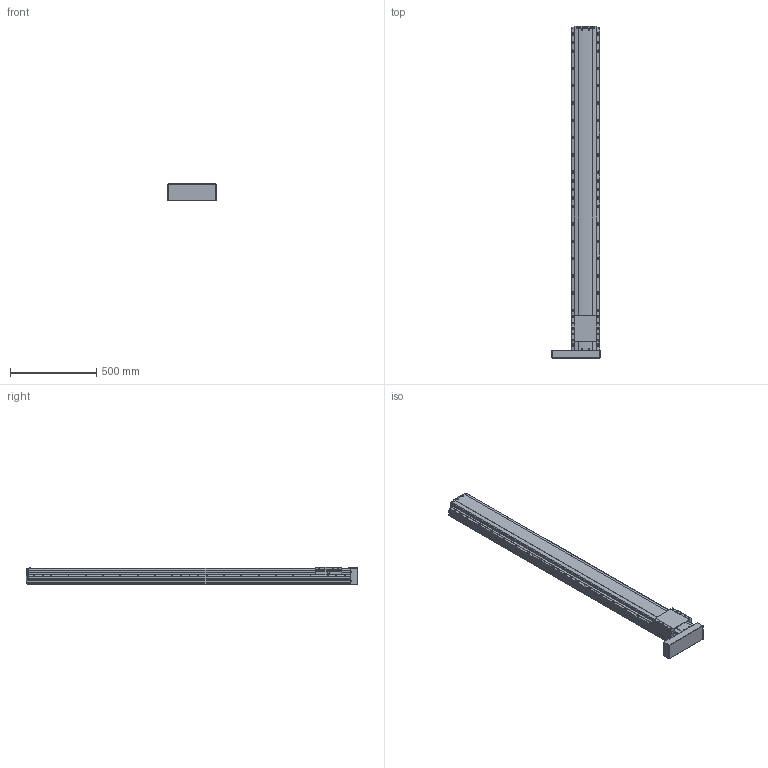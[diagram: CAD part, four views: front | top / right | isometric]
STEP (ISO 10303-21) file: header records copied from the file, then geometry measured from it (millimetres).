
FILE_DESCRIPTION(('STEP AP214'),'1');
FILE_NAME('Z:/Web/3D/PSA165/STP/PSA165-1600 (3D)/PSA165ㅁㅁ-1600PL.stp','2014-06-24T11:07:41',(' '),(' '),'Spatial InterOp 3D',' ',' ');
FILE_SCHEMA(('automotive_design'));
Length unit declared in the file: millimetre
Products named in the file (23): 스크루 : Round - M4.0 x 12.0; RRCV-PA160; BASE; 스크루 : Round - M4.0 x 10.0; RN15; Screw 20; SLIDE; FRCV; MTPL; 스크루 : Round - M3.0 x 6.0
Bounding box: 281.93 x 1920.8 x 104 mm (x, y, z)
Volume: 26794173.6 mm3; surface area: 1568901.6 mm2
Topology: 23 solids, 23 shells, 2259 faces, 6125 edges, 3885 vertices
Faces by surface type: plane 1132, cylinder 809, cone 233, sphere 44, bspline 25, torus 16
Entity records: 92607 total; most frequent: CARTESIAN_POINT 16978, DIRECTION 12071, ORIENTED_EDGE 11878, EDGE_CURVE 5939, AXIS2_PLACEMENT_3D 4152, VERTEX_POINT 3885, LINE 3767, VECTOR 3767
